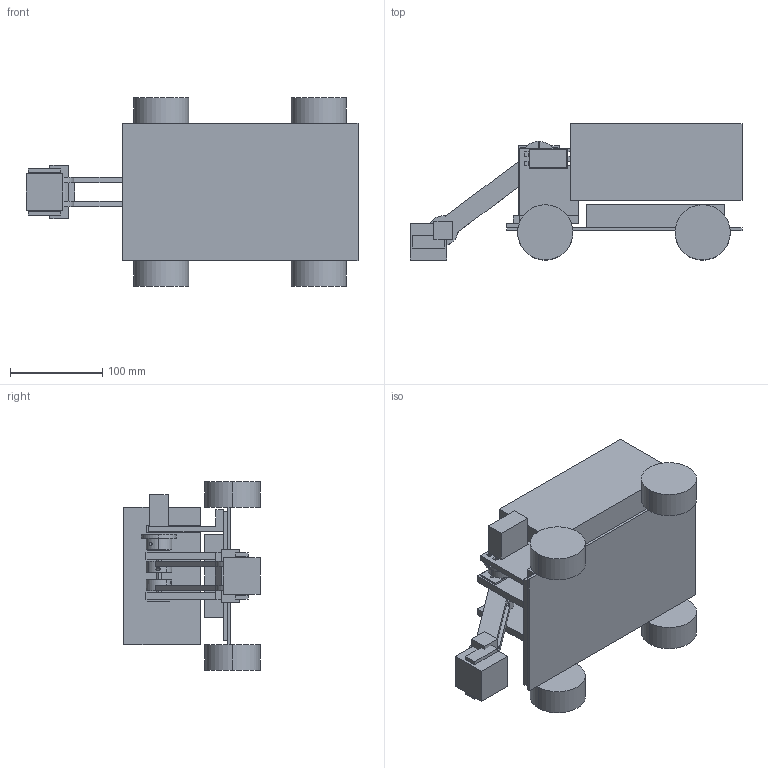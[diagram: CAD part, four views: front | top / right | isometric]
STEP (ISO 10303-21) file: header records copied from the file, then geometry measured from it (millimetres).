
FILE_DESCRIPTION (( 'STEP AP203' ), '1' );
FILE_NAME ('FlipArm_V2_pickup.STEP', '2026-09-18T10:20:16', ( '15300530775@163.com' ), ( '' ), 'SwSTEP 2.0', 'SolidWorks 2026', '' );
FILE_SCHEMA (( 'CONFIG_CONTROL_DESIGN' ));
Length unit declared in the file: millimetre
Products named in the file (18): V2_07_servo_stand; V2_03_bearing_retainer; FlipArm_V2_pickup; V2_bin_180x143x80; V2_01_base; V2_REF_gripper_finger; V2_REF_electronics_envelope; V2_REF_625ZZ; V2_06_horn_coupler; V2_REF_chassis_255p8x149; V2_02_bearing_tower; V2_REF_block40; V2_REF_5mm_shaft; V2_REF_wheel_D60; V2_REF_gripper_body; V2_05_wrist_adapter; V2_04_arm_plate; V2_REF_MG995_envelope
Assembly tree (25 placements, depth 2):
  FlipArm_V2_pickup
    V2_REF_chassis_255p8x149
    V2_REF_wheel_D60  x4
    V2_REF_electronics_envelope
    V2_bin_180x143x80
    V2_01_base
    V2_02_bearing_tower  x2
    V2_03_bearing_retainer  x2
    V2_REF_625ZZ  x2
    V2_REF_5mm_shaft
    V2_04_arm_plate  x2
    V2_05_wrist_adapter
    V2_06_horn_coupler
    V2_07_servo_stand
    V2_REF_MG995_envelope
    V2_REF_gripper_body
    V2_REF_gripper_finger  x2
    V2_REF_block40
Bounding box: 360.8 x 148 x 205 mm (x, y, z)
Volume: 1361695.2 mm3; surface area: 447123.1 mm2
Topology: 25 solids, 25 shells, 327 faces, 846 edges, 564 vertices
Faces by surface type: plane 192, cylinder 135
Entity records: 10820 total; most frequent: CARTESIAN_POINT 2266, ORIENTED_EDGE 1308, DIRECTION 1300, EDGE_CURVE 654, LINE 456, VECTOR 456, VERTEX_POINT 436, AXIS2_PLACEMENT_3D 422
